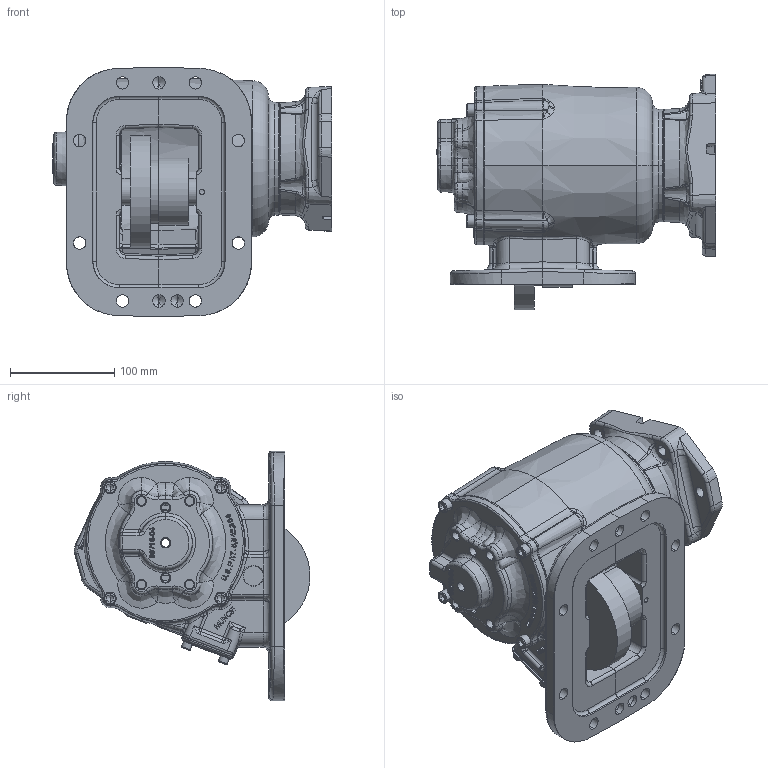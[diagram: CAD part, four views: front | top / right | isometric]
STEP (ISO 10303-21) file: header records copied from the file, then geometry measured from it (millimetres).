
FILE_DESCRIPTION (( 'STEP AP203' ), '1' );
FILE_NAME ('CS8S-XXXXX-X3PX.STEP', '2012-06-11T15:04:00', ( '' ), ( '' ), 'SwSTEP 2.0', 'SolidWorks 2012', '' );
FILE_SCHEMA (( 'CONFIG_CONTROL_DESIGN' ));
Products named in the file (3): CS8S-XXXXX-X3PX; 14T37779; CS8S-XXXXX-X3XX
Assembly tree (2 placements, depth 2):
  CS8S-XXXXX-X3PX
    CS8S-XXXXX-X3XX
    14T37779
Bounding box: 268.87 x 226.41 x 239.61 mm (x, y, z)
Volume: 1997665.7 mm3; surface area: 470279.6 mm2
Topology: 3 solids, 14 shells, 2427 faces, 6182 edges, 3825 vertices
Faces by surface type: bspline 928, plane 644, cylinder 456, cone 313, torus 78, sphere 8
Entity records: 121627 total; most frequent: CARTESIAN_POINT 69492, ORIENTED_EDGE 12192, DIRECTION 8478, EDGE_CURVE 6096, VERTEX_POINT 3825, AXIS2_PLACEMENT_3D 2987, EDGE_LOOP 2677, LINE 2504
